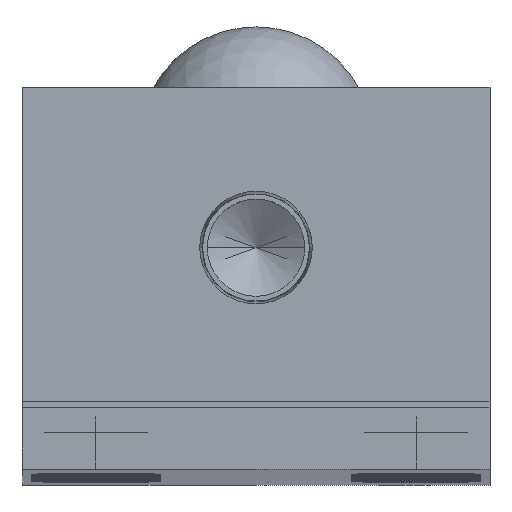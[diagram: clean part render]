
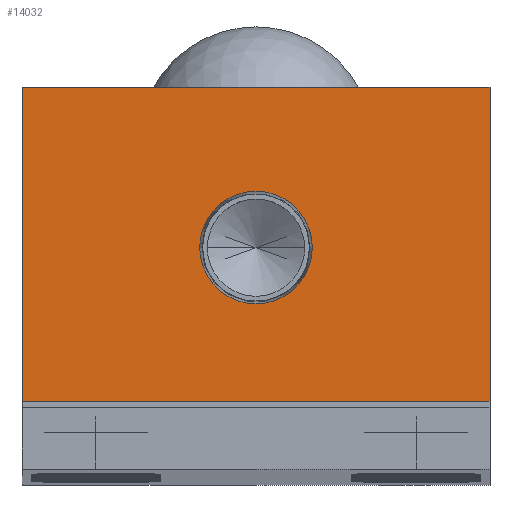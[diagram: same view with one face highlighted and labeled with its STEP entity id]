
A CAD part, top view. The second image highlights one B-rep face of the part: STEP entity #14032.
In plain terms, the highlighted planar face has unit normal (0, 0, 1).
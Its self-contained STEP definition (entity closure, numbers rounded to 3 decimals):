
#73 = EDGE_CURVE ( 'NONE', #17116, #12651, #5908, .T. ) ;
#631 = CARTESIAN_POINT ( 'NONE',  ( 19., 31., 0. ) ) ;
#750 = VERTEX_POINT ( 'NONE', #14860 ) ;
#959 = EDGE_LOOP ( 'NONE', ( #7039, #4671, #8161, #2001 ) ) ;
#2001 = ORIENTED_EDGE ( 'NONE', *, *, #73, .T. ) ;
#2011 = DIRECTION ( 'NONE',  ( -1., 0., 0. ) ) ;
#2515 = PLANE ( 'NONE',  #2781 ) ;
#2778 = DIRECTION ( 'NONE',  ( 0., 1., 0. ) ) ;
#2781 = AXIS2_PLACEMENT_3D ( 'NONE', #7991, #14880, #6665 ) ;
#3215 = CARTESIAN_POINT ( 'NONE',  ( 19., 31., 0. ) ) ;
#3895 = CARTESIAN_POINT ( 'NONE',  ( -4.574, 18., 0. ) ) ;
#4269 = EDGE_CURVE ( 'NONE', #12651, #5322, #4630, .T. ) ;
#4400 = EDGE_CURVE ( 'NONE', #13631, #750, #5274, .T. ) ;
#4504 = VECTOR ( 'NONE', #2778, 1000. ) ;
#4630 = LINE ( 'NONE', #8926, #7402 ) ;
#4671 = ORIENTED_EDGE ( 'NONE', *, *, #15498, .T. ) ;
#4816 = CARTESIAN_POINT ( 'NONE',  ( 0., 18., 0. ) ) ;
#5229 = DIRECTION ( 'NONE',  ( 0., 0., 1. ) ) ;
#5274 = CIRCLE ( 'NONE', #12095, 4.574 ) ;
#5322 = VERTEX_POINT ( 'NONE', #13973 ) ;
#5489 = CIRCLE ( 'NONE', #8142, 4.574 ) ;
#5595 = LINE ( 'NONE', #631, #8379 ) ;
#5845 = CARTESIAN_POINT ( 'NONE',  ( -19., 31., 0. ) ) ;
#5908 = LINE ( 'NONE', #5845, #8691 ) ;
#6187 = DIRECTION ( 'NONE',  ( 1., 0., 0. ) ) ;
#6665 = DIRECTION ( 'NONE',  ( 1., 0., 0. ) ) ;
#7039 = ORIENTED_EDGE ( 'NONE', *, *, #4269, .T. ) ;
#7402 = VECTOR ( 'NONE', #13051, 1000. ) ;
#7991 = CARTESIAN_POINT ( 'NONE',  ( 0., 0., 0. ) ) ;
#8136 = LINE ( 'NONE', #10983, #4504 ) ;
#8142 = AXIS2_PLACEMENT_3D ( 'NONE', #4816, #14404, #6187 ) ;
#8161 = ORIENTED_EDGE ( 'NONE', *, *, #12792, .T. ) ;
#8379 = VECTOR ( 'NONE', #2011, 1000. ) ;
#8691 = VECTOR ( 'NONE', #15444, 1000. ) ;
#8707 = EDGE_LOOP ( 'NONE', ( #9660, #13995 ) ) ;
#8926 = CARTESIAN_POINT ( 'NONE',  ( 19., 5.5, 0. ) ) ;
#9660 = ORIENTED_EDGE ( 'NONE', *, *, #17358, .F. ) ;
#10790 = CARTESIAN_POINT ( 'NONE',  ( -19., 31., 0. ) ) ;
#10983 = CARTESIAN_POINT ( 'NONE',  ( 19., 5.5, 0. ) ) ;
#12095 = AXIS2_PLACEMENT_3D ( 'NONE', #13414, #5229, #14811 ) ;
#12514 = CARTESIAN_POINT ( 'NONE',  ( -19., 5.5, 0. ) ) ;
#12651 = VERTEX_POINT ( 'NONE', #12514 ) ;
#12792 = EDGE_CURVE ( 'NONE', #14830, #17116, #5595, .T. ) ;
#12838 = FACE_BOUND ( 'NONE', #8707, .T. ) ;
#13051 = DIRECTION ( 'NONE',  ( 1., 0., 0. ) ) ;
#13414 = CARTESIAN_POINT ( 'NONE',  ( 0., 18., 0. ) ) ;
#13631 = VERTEX_POINT ( 'NONE', #3895 ) ;
#13973 = CARTESIAN_POINT ( 'NONE',  ( 19., 5.5, 0. ) ) ;
#13995 = ORIENTED_EDGE ( 'NONE', *, *, #4400, .F. ) ;
#14032 = ADVANCED_FACE ( 'NONE', ( #12838, #16079 ), #2515, .T. ) ;
#14404 = DIRECTION ( 'NONE',  ( 0., 0., 1. ) ) ;
#14811 = DIRECTION ( 'NONE',  ( 1., 0., 0. ) ) ;
#14830 = VERTEX_POINT ( 'NONE', #3215 ) ;
#14860 = CARTESIAN_POINT ( 'NONE',  ( 4.574, 18., 0. ) ) ;
#14880 = DIRECTION ( 'NONE',  ( 0., 0., 1. ) ) ;
#15444 = DIRECTION ( 'NONE',  ( 0., -1., 0. ) ) ;
#15498 = EDGE_CURVE ( 'NONE', #5322, #14830, #8136, .T. ) ;
#16079 = FACE_OUTER_BOUND ( 'NONE', #959, .T. ) ;
#17116 = VERTEX_POINT ( 'NONE', #10790 ) ;
#17358 = EDGE_CURVE ( 'NONE', #750, #13631, #5489, .T. ) ;
